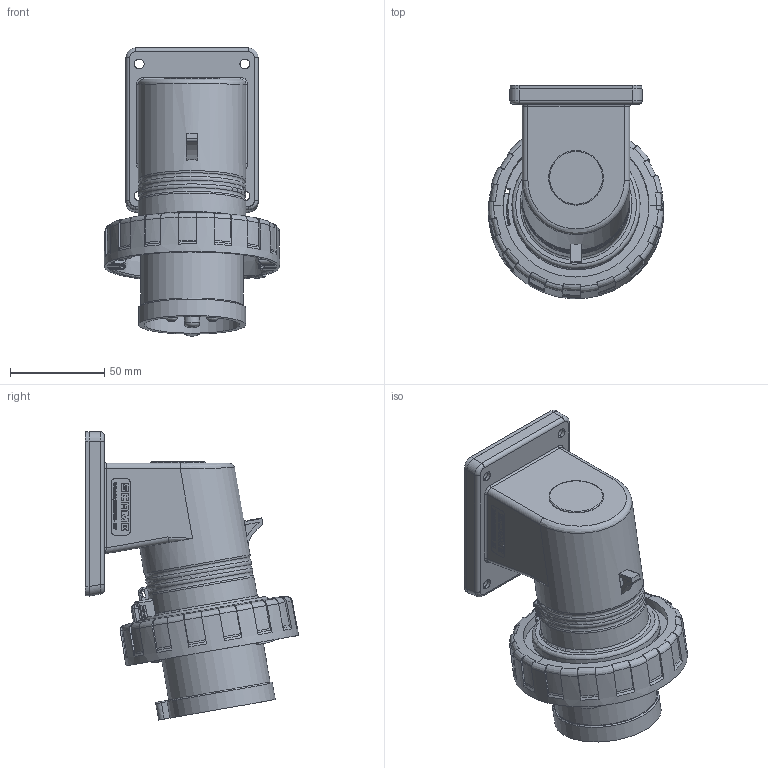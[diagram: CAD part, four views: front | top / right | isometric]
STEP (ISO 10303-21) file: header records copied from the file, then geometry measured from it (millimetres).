
FILE_DESCRIPTION(/* description */ (''),/* implementation_level */ '2;1');
FILE_NAME(/* name */ '4006464.stp',/* time_stamp */ '2019-10-16T08:34:15+02:00',/* author */ (''),/* organization */ (''),/* preprocessor_version */ 'ST-DEVELOPER v16.7',/* originating_system */ 'SIEMENS PLM Software NX 1884',/* authorisation */ '');
FILE_SCHEMA (('AUTOMOTIVE_DESIGN { 1 0 10303 214 3 1 1 1 }'));
Products named in the file (1): BSOM281C0A08gjdt
Bounding box: 92.96 x 112.99 x 152.71 mm (x, y, z)
Volume: 145780.4 mm3; surface area: 133051.3 mm2
Topology: 9 solids, 9 shells, 1654 faces, 4429 edges, 2894 vertices
Faces by surface type: plane 815, cylinder 433, extrusion 164, bspline 128, torus 55, cone 51, sphere 8
Full cylindrical faces by diameter (mm): 1.8 x3, 2 x1, 2.4 x1, 2.8 x6, 4.7 x3, 5 x3, 5.6 x4, 6 x6, 6.3 x2, 8 x2, 8.3 x3, 9.002 x1, 9.3 x1, 11 x2, 11.998 x1, 22 x1, 23.9 x1, 29 x1, 47.6 x1, 50.7 x1, 54.5 x1, 57 x1, 61.1 x1, 77.3 x1
Entity records: 64664 total; most frequent: CARTESIAN_POINT 24202, ORIENTED_EDGE 8596, DIRECTION 7330, EDGE_CURVE 4298, VERTEX_POINT 2857, VECTOR 2454, AXIS2_PLACEMENT_3D 2438, LINE 2290
